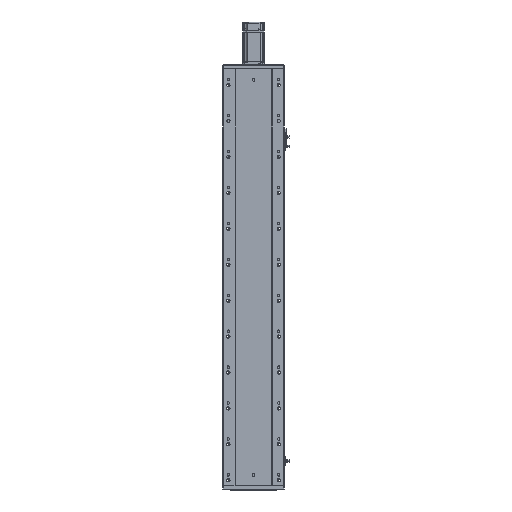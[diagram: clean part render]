
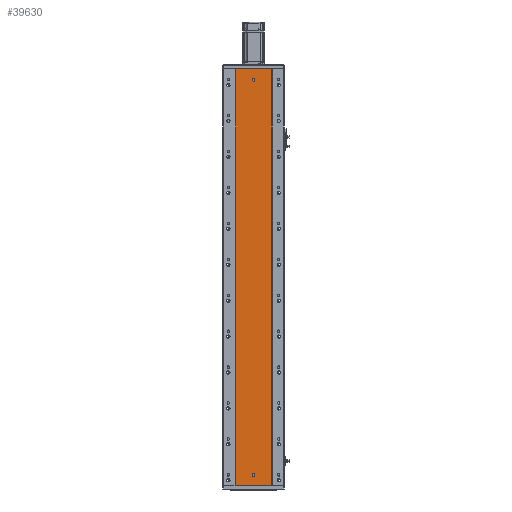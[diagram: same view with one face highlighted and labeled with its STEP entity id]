
A CAD part, front view. The second image highlights one B-rep face of the part: STEP entity #39630.
In plain terms, the highlighted planar face has unit normal (0, -1, 0).
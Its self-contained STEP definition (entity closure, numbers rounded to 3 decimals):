
#866 = ORIENTED_EDGE ( 'NONE', *, *, #7293, .F. ) ;
#881 = ORIENTED_EDGE ( 'NONE', *, *, #7294, .F. ) ;
#885 = ORIENTED_EDGE ( 'NONE', *, *, #7327, .F. ) ;
#893 = ORIENTED_EDGE ( 'NONE', *, *, #56821, .F. ) ;
#913 = ORIENTED_EDGE ( 'NONE', *, *, #7279, .T. ) ;
#940 = ORIENTED_EDGE ( 'NONE', *, *, #7330, .T. ) ;
#952 = ORIENTED_EDGE ( 'NONE', *, *, #56803, .F. ) ;
#955 = ORIENTED_EDGE ( 'NONE', *, *, #7282, .F. ) ;
#7279 = EDGE_CURVE ( 'NONE', #58284, #17560, #53420, .T. ) ;
#7282 = EDGE_CURVE ( 'NONE', #57459, #58722, #53408, .T. ) ;
#7293 = EDGE_CURVE ( 'NONE', #58329, #58333, #53412, .T. ) ;
#7294 = EDGE_CURVE ( 'NONE', #58333, #17560, #43848, .T. ) ;
#7327 = EDGE_CURVE ( 'NONE', #57448, #57480, #53492, .T. ) ;
#7330 = EDGE_CURVE ( 'NONE', #58329, #58284, #43853, .T. ) ;
#11618 = CARTESIAN_POINT ( 'NONE',  ( 136.47, 79.476, 30. ) ) ;
#11620 = DIRECTION ( 'NONE',  ( 0., -1., 0. ) ) ;
#11657 = DIRECTION ( 'NONE',  ( 0., 0., -1. ) ) ;
#11668 = DIRECTION ( 'NONE',  ( 0., -1., 0. ) ) ;
#11681 = CARTESIAN_POINT ( 'NONE',  ( 136.47, 79.476, 1130. ) ) ;
#11687 = DIRECTION ( 'NONE',  ( 0., 0., -1. ) ) ;
#17560 = VERTEX_POINT ( 'NONE', #19039 ) ;
#19039 = CARTESIAN_POINT ( 'NONE',  ( 185.97, 79.476, 0. ) ) ;
#23939 = AXIS2_PLACEMENT_3D ( 'NONE', #11681, #11668, #11687 ) ;
#23951 = AXIS2_PLACEMENT_3D ( 'NONE', #11618, #11620, #11657 ) ;
#24368 = EDGE_LOOP ( 'NONE', ( #955, #952 ) ) ;
#24371 = EDGE_LOOP ( 'NONE', ( #913, #881, #866, #940 ) ) ;
#24372 = EDGE_LOOP ( 'NONE', ( #885, #893 ) ) ;
#28043 = AXIS2_PLACEMENT_3D ( 'NONE', #43688, #43680, #43665 ) ;
#28338 = AXIS2_PLACEMENT_3D ( 'NONE', #43998, #43996, #43984 ) ;
#28362 = AXIS2_PLACEMENT_3D ( 'NONE', #44234, #44235, #44238 ) ;
#30979 = FACE_BOUND ( 'NONE', #24372, .T. ) ;
#30999 = FACE_BOUND ( 'NONE', #24368, .T. ) ;
#31019 = FACE_OUTER_BOUND ( 'NONE', #24371, .T. ) ;
#39630 = ADVANCED_FACE ( 'NONE', ( #31019, #30999, #30979 ), #43686, .F. ) ;
#43665 = DIRECTION ( 'NONE',  ( 0., 0., 1. ) ) ;
#43680 = DIRECTION ( 'NONE',  ( 0., 1., 0. ) ) ;
#43686 = PLANE ( 'NONE',  #28043 ) ;
#43688 = CARTESIAN_POINT ( 'NONE',  ( 0., 79.476, 1160. ) ) ;
#43848 = B_SPLINE_CURVE_WITH_KNOTS ( 'NONE', 3,
 ( #44035, #44036, #44040, #44015 ),
 .UNSPECIFIED., .F., .F.,
 ( 4, 4 ),
 ( 0., 1. ),
 .UNSPECIFIED. ) ;
#43853 = B_SPLINE_CURVE_WITH_KNOTS ( 'NONE', 3,
 ( #44251, #44240, #44211, #44237 ),
 .UNSPECIFIED., .F., .F.,
 ( 4, 4 ),
 ( 0., 1. ),
 .UNSPECIFIED. ) ;
#43960 = CARTESIAN_POINT ( 'NONE',  ( 0., 79.476, 0. ) ) ;
#43969 = DIRECTION ( 'NONE',  ( 1., 0., 0. ) ) ;
#43984 = DIRECTION ( 'NONE',  ( 0., 0., -1. ) ) ;
#43996 = DIRECTION ( 'NONE',  ( 0., -1., 0. ) ) ;
#43998 = CARTESIAN_POINT ( 'NONE',  ( 136.47, 79.476, 30. ) ) ;
#44015 = CARTESIAN_POINT ( 'NONE',  ( 185.97, 79.476, 0. ) ) ;
#44033 = DIRECTION ( 'NONE',  ( 1., 0., 0. ) ) ;
#44035 = CARTESIAN_POINT ( 'NONE',  ( 185.97, 79.476, 1160. ) ) ;
#44036 = CARTESIAN_POINT ( 'NONE',  ( 185.97, 79.476, 773.333 ) ) ;
#44040 = CARTESIAN_POINT ( 'NONE',  ( 185.97, 79.476, 386.667 ) ) ;
#44052 = CARTESIAN_POINT ( 'NONE',  ( 0., 79.476, 1160. ) ) ;
#44211 = CARTESIAN_POINT ( 'NONE',  ( 86.97, 79.476, 386.667 ) ) ;
#44234 = CARTESIAN_POINT ( 'NONE',  ( 136.47, 79.476, 1130. ) ) ;
#44235 = DIRECTION ( 'NONE',  ( 0., -1., 0. ) ) ;
#44237 = CARTESIAN_POINT ( 'NONE',  ( 86.97, 79.476, 0. ) ) ;
#44238 = DIRECTION ( 'NONE',  ( 0., 0., -1. ) ) ;
#44240 = CARTESIAN_POINT ( 'NONE',  ( 86.97, 79.476, 773.333 ) ) ;
#44251 = CARTESIAN_POINT ( 'NONE',  ( 86.97, 79.476, 1160. ) ) ;
#48377 = CIRCLE ( 'NONE', #23939, 4. ) ;
#48407 = CIRCLE ( 'NONE', #23951, 4. ) ;
#53368 = VECTOR ( 'NONE', #43969, 1000. ) ;
#53380 = VECTOR ( 'NONE', #44033, 1000. ) ;
#53408 = CIRCLE ( 'NONE', #28338, 4. ) ;
#53412 = LINE ( 'NONE', #44052, #53380 ) ;
#53420 = LINE ( 'NONE', #43960, #53368 ) ;
#53492 = CIRCLE ( 'NONE', #28362, 4. ) ;
#56803 = EDGE_CURVE ( 'NONE', #58722, #57459, #48407, .T. ) ;
#56821 = EDGE_CURVE ( 'NONE', #57480, #57448, #48377, .T. ) ;
#57448 = VERTEX_POINT ( 'NONE', #71007 ) ;
#57459 = VERTEX_POINT ( 'NONE', #70990 ) ;
#57480 = VERTEX_POINT ( 'NONE', #71076 ) ;
#58284 = VERTEX_POINT ( 'NONE', #61966 ) ;
#58329 = VERTEX_POINT ( 'NONE', #62056 ) ;
#58333 = VERTEX_POINT ( 'NONE', #62005 ) ;
#58722 = VERTEX_POINT ( 'NONE', #62063 ) ;
#61966 = CARTESIAN_POINT ( 'NONE',  ( 86.97, 79.476, 0. ) ) ;
#62005 = CARTESIAN_POINT ( 'NONE',  ( 185.97, 79.476, 1160. ) ) ;
#62056 = CARTESIAN_POINT ( 'NONE',  ( 86.97, 79.476, 1160. ) ) ;
#62063 = CARTESIAN_POINT ( 'NONE',  ( 136.47, 79.476, 34. ) ) ;
#70990 = CARTESIAN_POINT ( 'NONE',  ( 136.47, 79.476, 26. ) ) ;
#71007 = CARTESIAN_POINT ( 'NONE',  ( 136.47, 79.476, 1126. ) ) ;
#71076 = CARTESIAN_POINT ( 'NONE',  ( 136.47, 79.476, 1134. ) ) ;
